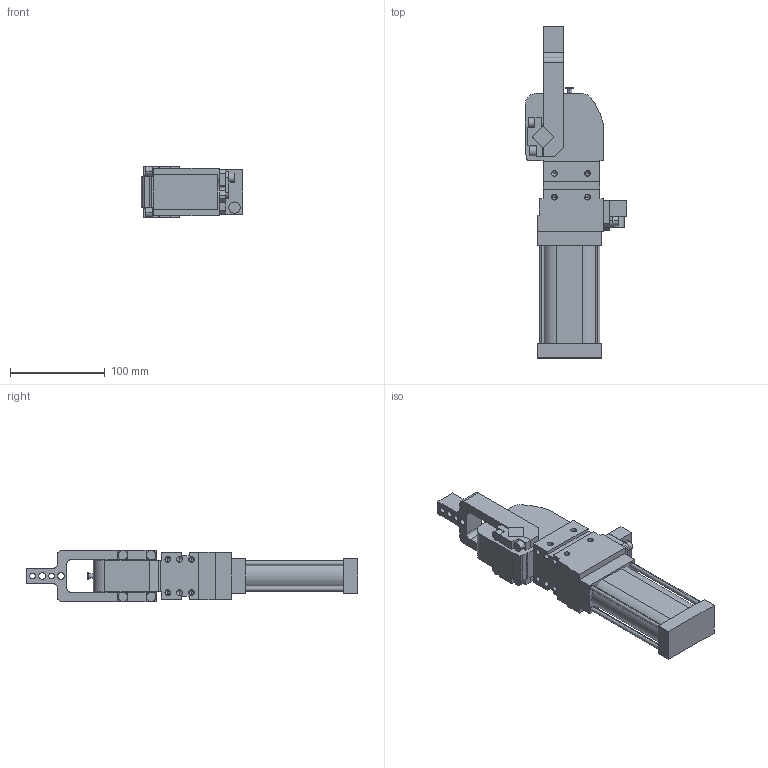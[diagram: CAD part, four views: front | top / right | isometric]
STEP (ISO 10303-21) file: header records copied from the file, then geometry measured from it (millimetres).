
FILE_DESCRIPTION (( 'STEP AP214' ), '1' );
FILE_NAME ('cpl40h2csi1g_91.STEP', '2021-05-25T10:43:22', ( '' ), ( '' ), 'SwSTEP 2.0', 'SolidWorks 2021', '' );
FILE_SCHEMA (( 'AUTOMOTIVE_DESIGN' ));
Length unit declared in the file: millimetre
Products named in the file (5): blocchetto_VEP_0_cpl40; piastra_blocchetto_cpl40; meccanica_cpl40; cpl40h2csi1g_91; leva_v2c_cpl40
Assembly tree (4 placements, depth 2):
  cpl40h2csi1g_91
    meccanica_cpl40
    leva_v2c_cpl40
    blocchetto_VEP_0_cpl40
    piastra_blocchetto_cpl40
Bounding box: 107.5 x 350 x 54 mm (x, y, z)
Volume: 763965.7 mm3; surface area: 115813 mm2
Topology: 5 solids, 5 shells, 404 faces, 1028 edges, 641 vertices
Faces by surface type: plane 214, cylinder 142, cone 48
Entity records: 13443 total; most frequent: DIRECTION 2118, CARTESIAN_POINT 2034, ORIENTED_EDGE 1964, EDGE_CURVE 982, AXIS2_PLACEMENT_3D 725, VECTOR 668, LINE 668, VERTEX_POINT 641
